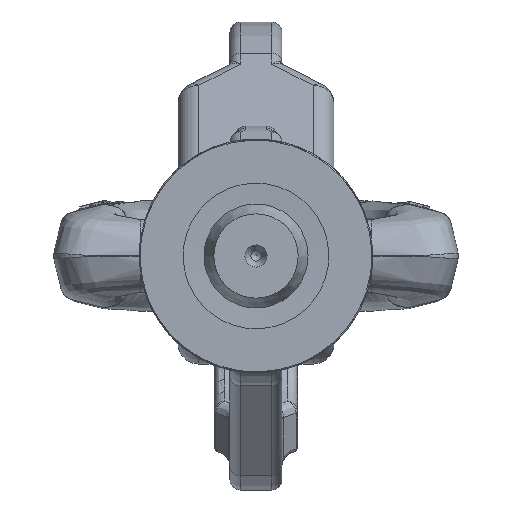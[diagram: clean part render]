
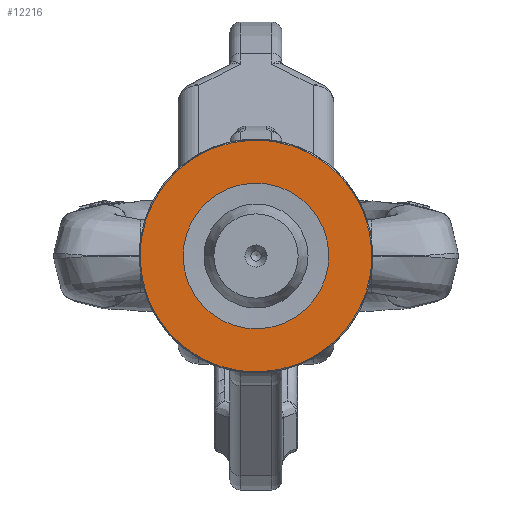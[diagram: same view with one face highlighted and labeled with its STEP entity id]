
A CAD part, front view. The second image highlights one B-rep face of the part: STEP entity #12216.
In plain terms, the highlighted planar face has unit normal (0, -1, 0) as drawn and (0, 0, -1) by its records, which use the part's own axes.
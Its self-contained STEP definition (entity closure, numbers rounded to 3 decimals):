
#2739=PLANE('',#13211);
#2891=FACE_BOUND('',#4430,.T.);
#3625=FACE_OUTER_BOUND('',#4429,.T.);
#4429=EDGE_LOOP('',(#11440));
#4430=EDGE_LOOP('',(#11441));
#4830=CIRCLE('',#13208,22.3);
#4832=CIRCLE('',#13212,14.);
#5996=VERTEX_POINT('',#34705);
#5998=VERTEX_POINT('',#34711);
#7814=EDGE_CURVE('',#5996,#5996,#4830,.T.);
#7816=EDGE_CURVE('',#5998,#5998,#4832,.T.);
#11440=ORIENTED_EDGE('',*,*,#7814,.F.);
#11441=ORIENTED_EDGE('',*,*,#7816,.F.);
#12216=ADVANCED_FACE('',(#3625,#2891),#2739,.F.);
#13208=AXIS2_PLACEMENT_3D('',#34706,#15632,#15633);
#13211=AXIS2_PLACEMENT_3D('',#34710,#15638,#15639);
#13212=AXIS2_PLACEMENT_3D('',#34712,#15640,#15641);
#15632=DIRECTION('center_axis',(0.,0.,1.));
#15633=DIRECTION('ref_axis',(-1.,0.,0.));
#15638=DIRECTION('center_axis',(0.,0.,1.));
#15639=DIRECTION('ref_axis',(1.,0.,0.));
#15640=DIRECTION('center_axis',(0.,0.,-1.));
#15641=DIRECTION('ref_axis',(-1.,0.,0.));
#34705=CARTESIAN_POINT('',(22.3,0.,0.));
#34706=CARTESIAN_POINT('Origin',(0.,0.,0.));
#34710=CARTESIAN_POINT('Origin',(0.,0.,0.));
#34711=CARTESIAN_POINT('',(14.,0.,0.));
#34712=CARTESIAN_POINT('Origin',(0.,0.,0.));
